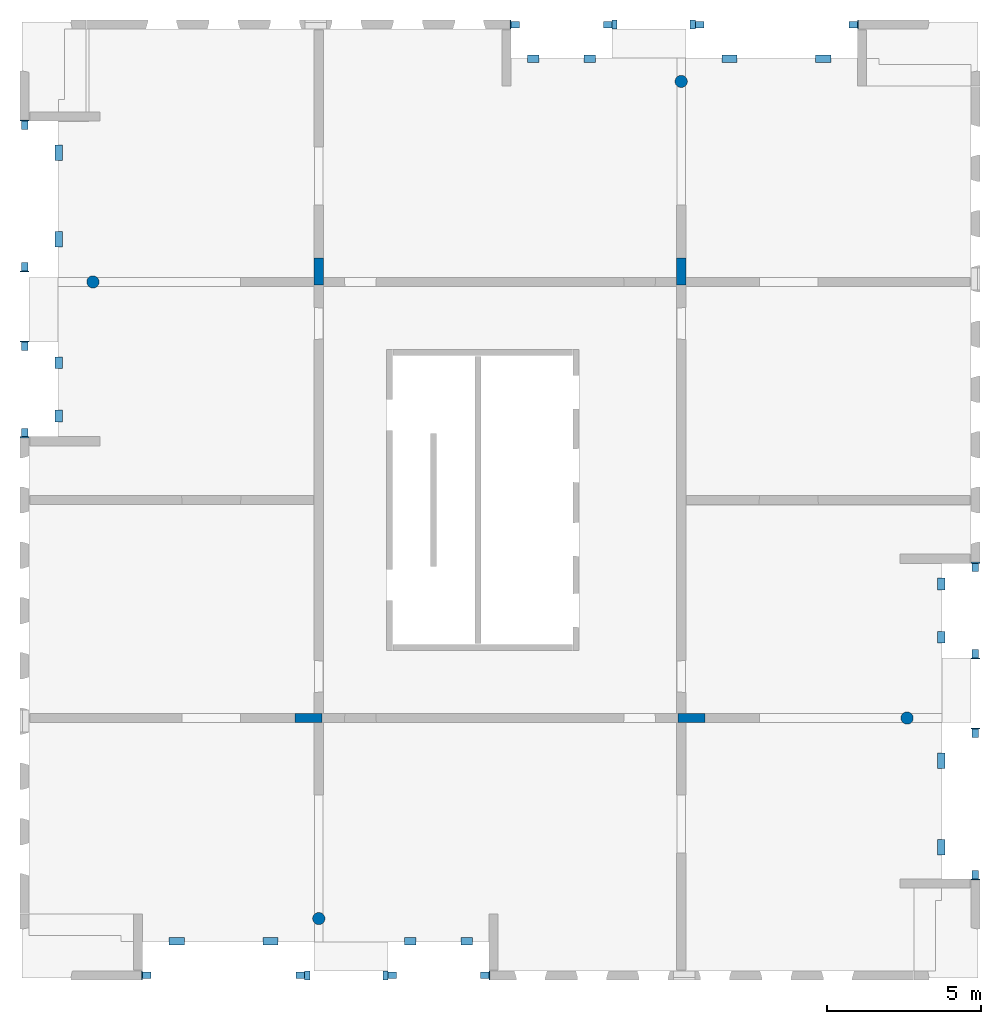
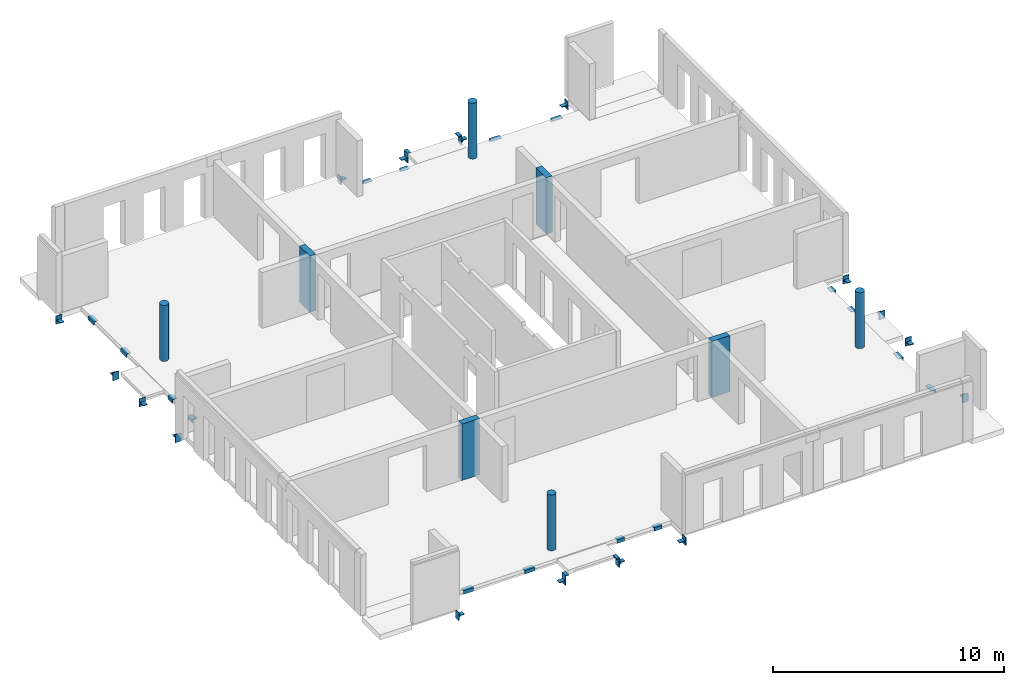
# One storey, part 1 of 6: 32 beams, 8 columns.
"""IFC2X3 building model written with IfcOpenShell, lengths in millimetres."""

from ifc_helpers import new_model, entity, si_unit, converted_unit, derived_unit, direction, frame, frame_2d, origin, origin_2d_with_axis, place, context, subcontext, project, spatial, polyline, rectangle, circle, outline, extrude, source, transform, mapped, material, type_object, type_shapes, element, save


model = new_model("IFC2X3")

# Units and contexts
model_context = context("Model", 3, precision=0.01, world=origin(), true_north=direction((6.12303176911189e-17, 1.0)))
body_context = subcontext(model_context, "Body", "Model", "MODEL_VIEW")
ifc_project = project(units=[si_unit("LENGTHUNIT", "METRE", prefix="MILLI"), si_unit("AREAUNIT", "SQUARE_METRE"), si_unit("VOLUMEUNIT", "CUBIC_METRE"), converted_unit("PLANEANGLEUNIT", "DEGREE", entity("IfcRatioMeasure", 0.0174532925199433), si_unit("PLANEANGLEUNIT", "RADIAN"), dimensions=[0, 0, 0, 0, 0, 0, 0]), si_unit("MASSUNIT", "GRAM", prefix="KILO"), derived_unit("MASSDENSITYUNIT", [(si_unit("MASSUNIT", "GRAM", prefix="KILO"), 1), (si_unit("LENGTHUNIT", "METRE"), -3)]), si_unit("TIMEUNIT", "SECOND"), si_unit("FREQUENCYUNIT", "HERTZ"), si_unit("THERMODYNAMICTEMPERATUREUNIT", "DEGREE_CELSIUS"), derived_unit("THERMALTRANSMITTANCEUNIT", [(si_unit("MASSUNIT", "GRAM", prefix="KILO"), 1), (si_unit("THERMODYNAMICTEMPERATUREUNIT", "KELVIN"), -1), (si_unit("TIMEUNIT", "SECOND"), -3)]), derived_unit("VOLUMETRICFLOWRATEUNIT", [(si_unit("LENGTHUNIT", "METRE"), 3), (si_unit("TIMEUNIT", "SECOND"), -1)]), si_unit("ELECTRICCURRENTUNIT", "AMPERE"), si_unit("ELECTRICVOLTAGEUNIT", "VOLT"), si_unit("POWERUNIT", "WATT"), si_unit("FORCEUNIT", "NEWTON", prefix="KILO"), si_unit("ILLUMINANCEUNIT", "LUX"), si_unit("LUMINOUSFLUXUNIT", "LUMEN"), si_unit("LUMINOUSINTENSITYUNIT", "CANDELA"), derived_unit("USERDEFINED", [(si_unit("MASSUNIT", "GRAM", prefix="KILO"), -1), (si_unit("LENGTHUNIT", "METRE"), -2), (si_unit("TIMEUNIT", "SECOND"), 3), (si_unit("LUMINOUSFLUXUNIT", "LUMEN"), 1)]), derived_unit("LINEARVELOCITYUNIT", [(si_unit("LENGTHUNIT", "METRE"), 1), (si_unit("TIMEUNIT", "SECOND"), -1)]), si_unit("PRESSUREUNIT", "PASCAL"), derived_unit("USERDEFINED", [(si_unit("LENGTHUNIT", "METRE"), -2), (si_unit("MASSUNIT", "GRAM", prefix="KILO"), 1), (si_unit("TIMEUNIT", "SECOND"), -2)])], contexts=[model_context])

# Site, building, storey
site_placement = place(None, origin())
site = spatial("IfcSite", under=ifc_project, at=site_placement, Name="Default", CompositionType="ELEMENT")
building_placement = place(site_placement, origin())
building = spatial("IfcBuilding", under=site, at=building_placement, Name="niet gebruiken", CompositionType="ELEMENT")
storey_placement = place(building_placement, frame((0.0, 0.0, 161820.0)))
storey = spatial("IfcBuildingStorey", under=building, at=storey_placement, Name="52 tweeënvijftigste verdieping", CompositionType="ELEMENT", Elevation=161820.0)

# Columns
ifc_material_1 = material(Name="NLRS_f2_beton ihwg")
column_type_1 = type_object("IfcColumnType", Name="300x880", PredefinedType="COLUMN", material=ifc_material_1)
shared_shape_1 = source(origin(), body_context, "Body", "SweptSolid", [
    extrude(rectangle(XDim=879.999999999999, YDim=300.000000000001, at=origin_2d_with_axis()), frame((135850.0, 24940.0, 161730.0), z_axis=(0.0, 0.0, 1.0), x_axis=(0.0, -1.0, 0.0)), (0.0, 0.0, 1.0), 2970.00000000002),
])
type_shapes(column_type_1, [shared_shape_1])
column_1_placement = place(storey_placement, frame((0.0, 0.0, -161820.0)))
element("IfcColumn", 1, at=column_1_placement, inside=storey, type_object=column_type_1, material=ifc_material_1, Name="NLRS_28.11_SCO_TLB_beton kolom ihwg_gen:300x880", ObjectType="300x880", context=body_context, shape_type="MappedRepresentation", body=[
    mapped(shared_shape_1, transform((0.0, 0.0, 0.0), scale=1.0)),
])
column_type_2 = type_object("IfcColumnType", Name="300x880", PredefinedType="COLUMN", material=ifc_material_1)
shared_shape_2 = source(origin(), body_context, "Body", "SweptSolid", [
    extrude(rectangle(XDim=879.999999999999, YDim=300.000000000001, at=origin_2d_with_axis()), frame((147650.0, 24940.0, 161730.0), z_axis=(0.0, 0.0, 1.0), x_axis=(0.0, -1.0, 0.0)), (0.0, 0.0, 1.0), 2970.00000000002),
])
type_shapes(column_type_2, [shared_shape_2])
column_2_placement = place(storey_placement, frame((0.0, 0.0, -161820.0)))
element("IfcColumn", 2, at=column_2_placement, inside=storey, type_object=column_type_2, material=ifc_material_1, Name="NLRS_28.11_SCO_TLB_beton kolom ihwg_gen:300x880", ObjectType="300x880", context=body_context, shape_type="MappedRepresentation", body=[
    mapped(shared_shape_2, transform((0.0, 0.0, 0.0), scale=1.0)),
])
column_type_3 = type_object("IfcColumnType", Name="300x880", PredefinedType="COLUMN", material=ifc_material_1)
shared_shape_3 = source(origin(), body_context, "Body", "SweptSolid", [
    extrude(rectangle(XDim=300.000000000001, YDim=880.000000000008, at=origin_2d_with_axis()), frame((135510.003540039, 10400.0, 161730.0), z_axis=(0.0, 0.0, 1.0), x_axis=(0.0, -1.0, 0.0)), (0.0, 0.0, 1.0), 2970.00000000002),
])
type_shapes(column_type_3, [shared_shape_3])
column_3_placement = place(storey_placement, frame((0.0, 0.0, -161820.0)))
element("IfcColumn", 3, at=column_3_placement, inside=storey, type_object=column_type_3, material=ifc_material_1, Name="NLRS_28.11_SCO_TLB_beton kolom ihwg_gen:300x880", ObjectType="300x880", context=body_context, shape_type="MappedRepresentation", body=[
    mapped(shared_shape_3, transform((0.0, 0.0, 0.0), scale=1.0)),
])
column_type_4 = type_object("IfcColumnType", Name="300x880", PredefinedType="COLUMN", material=ifc_material_1)
shared_shape_4 = source(origin(), body_context, "Body", "SweptSolid", [
    extrude(rectangle(XDim=300.000000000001, YDim=880.000000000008, at=origin_2d_with_axis()), frame((147990.0, 10400.0, 161730.0), z_axis=(0.0, 0.0, 1.0), x_axis=(0.0, -1.0, 0.0)), (0.0, 0.0, 1.0), 2970.00000000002),
])
type_shapes(column_type_4, [shared_shape_4])
column_4_placement = place(storey_placement, frame((0.0, 0.0, -161820.0)))
element("IfcColumn", 4, at=column_4_placement, inside=storey, type_object=column_type_4, material=ifc_material_1, Name="NLRS_28.11_SCO_TLB_beton kolom ihwg_gen:300x880", ObjectType="300x880", context=body_context, shape_type="MappedRepresentation", body=[
    mapped(shared_shape_4, transform((0.0, 0.0, 0.0), scale=1.0)),
])
ifc_material_2 = material(Name="NLRS_f2_beton prefab")
column_type_5 = type_object("IfcColumnType", Name="ø400", PredefinedType="COLUMN", material=ifc_material_2)
shared_shape_5 = source(origin(), body_context, "Body", "SweptSolid", [
    extrude(circle(Radius=200.000000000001, at=origin_2d_with_axis()), frame((147650.0, 31130.0, 161750.0), z_axis=(0.0, 0.0, 1.0), x_axis=(0.0, -1.0, 0.0)), (0.0, 0.0, 1.0), 2949.99999999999),
])
type_shapes(column_type_5, [shared_shape_5])
column_5_placement = place(storey_placement, frame((0.0, 0.0, -161820.0)))
element("IfcColumn", 5, at=column_5_placement, inside=storey, type_object=column_type_5, material=ifc_material_2, Name="NLRS_28. kolom rond_gen:ø400", ObjectType="ø400", context=body_context, shape_type="MappedRepresentation", body=[
    mapped(shared_shape_5, transform((0.0, 0.0, 0.0), scale=1.0)),
])
column_type_6 = type_object("IfcColumnType", Name="ø400", PredefinedType="COLUMN", material=ifc_material_2)
shared_shape_6 = source(origin(), body_context, "Body", "SweptSolid", [
    extrude(circle(Radius=199.999999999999, at=origin_2d_with_axis()), frame((155005.0, 10400.0, 161750.0), z_axis=(0.0, 0.0, 1.0), x_axis=(0.0, -1.0, 0.0)), (0.0, 0.0, 1.0), 2949.99999999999),
])
type_shapes(column_type_6, [shared_shape_6])
column_6_placement = place(storey_placement, frame((0.0, 0.0, -161820.0)))
element("IfcColumn", 6, at=column_6_placement, inside=storey, type_object=column_type_6, material=ifc_material_2, Name="NLRS_28. kolom rond_gen:ø400", ObjectType="ø400", context=body_context, shape_type="MappedRepresentation", body=[
    mapped(shared_shape_6, transform((0.0, 0.0, 0.0), scale=1.0)),
])
column_type_7 = type_object("IfcColumnType", Name="ø400", PredefinedType="COLUMN", material=ifc_material_2)
shared_shape_7 = source(origin(), body_context, "Body", "SweptSolid", [
    extrude(circle(Radius=199.999999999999, at=frame_2d((-5.41433564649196e-13, 0.0), x_axis=(1.0, 0.0))), frame((135850.0, 3870.0, 161750.0), z_axis=(0.0, 0.0, 1.0), x_axis=(0.0, -1.0, 0.0)), (0.0, 0.0, 1.0), 2949.99999999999),
])
type_shapes(column_type_7, [shared_shape_7])
column_7_placement = place(storey_placement, frame((0.0, 0.0, -161820.0)))
element("IfcColumn", 7, at=column_7_placement, inside=storey, type_object=column_type_7, material=ifc_material_2, Name="NLRS_28. kolom rond_gen:ø400", ObjectType="ø400", context=body_context, shape_type="MappedRepresentation", body=[
    mapped(shared_shape_7, transform((0.0, 0.0, 0.0), scale=1.0)),
])
column_type_8 = type_object("IfcColumnType", Name="ø400", PredefinedType="COLUMN", material=ifc_material_2)
shared_shape_8 = source(origin(), body_context, "Body", "SweptSolid", [
    extrude(circle(Radius=199.999999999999, at=origin_2d_with_axis()), frame((128495.0, 24600.0, 161750.0), z_axis=(0.0, 0.0, 1.0), x_axis=(0.0, -1.0, 0.0)), (0.0, 0.0, 1.0), 2949.99999999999),
])
type_shapes(column_type_8, [shared_shape_8])
column_8_placement = place(storey_placement, frame((0.0, 0.0, -161820.0)))
element("IfcColumn", 8, at=column_8_placement, inside=storey, type_object=column_type_8, material=ifc_material_2, Name="NLRS_28. kolom rond_gen:ø400", ObjectType="ø400", context=body_context, shape_type="MappedRepresentation", body=[
    mapped(shared_shape_8, transform((0.0, 0.0, 0.0), scale=1.0)),
])

# Beams
ifc_material_3 = material(Name="NLRS_h2_staal")
beam_type_1 = type_object("IfcBeamType", Name="NLRS_28.11_SF_WPB_stalen schoen 4_gen", PredefinedType="BEAM", material=ifc_material_3)
shared_shape_9 = source(origin(), body_context, "Body", "SweptSolid", [
    extrude(outline(polyline([(-69.4999999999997, -23.0), (8.49999999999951, -23.0), (30.5, -1.0), (30.5000000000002, 47.0), (-69.4999999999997, -23.0)])), frame((-105.0, -109.499999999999, -58.0), z_axis=(1.0, 0.0, 0.0), x_axis=(0.0, -1.0, 0.0)), (0.0, 0.0, 1.0), 35.0),
    extrude(outline(polyline([(-69.4999999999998, -23.0), (8.49999999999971, -23.0), (30.5, -1.0), (30.5000000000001, 47.0), (-69.4999999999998, -23.0)])), frame((70.0, -109.499999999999, -58.0), z_axis=(1.0, 0.0, 0.0), x_axis=(0.0, -1.0, 0.0)), (0.0, 0.0, 1.0), 35.0),
    extrude(rectangle(XDim=300.0, YDim=34.9999999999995, at=origin_2d_with_axis()), frame((0.0, -157.5, -230.0), z_axis=(0.0, 0.0, 1.0), x_axis=(-1.0, 0.0, 0.0)), (0.0, 0.0, 1.0), 420.0),
    extrude(rectangle(XDim=210.000000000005, YDim=274.999999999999, at=origin_2d_with_axis()), frame((0.0, -2.4999999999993, -35.0), z_axis=(0.0, 0.0, 1.0), x_axis=(-1.0, 0.0, 0.0)), (0.0, 0.0, 1.0), 35.0),
])
type_shapes(beam_type_1, [shared_shape_9])
beam_1_placement = place(storey_placement, frame((141250.0, 2020.0, -430.0), z_axis=(0.0, 0.0, 1.0), x_axis=(0.0, 1.0, 0.0)))
element("IfcBeam", 9, at=beam_1_placement, inside=storey, type_object=beam_type_1, material=ifc_material_3, Name="NLRS_28.11_SF_WPB_stalen schoen 4_gen:NLRS_28.11_SF_WPB_stalen schoen 4_gen", ObjectType="NLRS_28.11_SF_WPB_stalen schoen 4_gen", context=body_context, shape_type="MappedRepresentation", body=[
    mapped(shared_shape_9, transform((0.0, 0.0, 0.0), scale=1.0)),
])
beam_2_placement = place(storey_placement, frame((157230.0, 12500.0, -370.0)))
element("IfcBeam", 10, at=beam_2_placement, inside=storey, type_object=beam_type_1, material=ifc_material_3, Name="NLRS_28.11_SF_WPB_stalen schoen 4_gen:NLRS_28.11_SF_WPB_stalen schoen 4_gen", ObjectType="NLRS_28.11_SF_WPB_stalen schoen 4_gen", context=body_context, shape_type="MappedRepresentation", body=[
    mapped(shared_shape_9, transform((0.0, 0.0, 0.0), scale=1.0)),
])
for number, where, z_axis, x_axis, name in (
    (11, (157230.0, 15300.0, -370.0), (0.0, 0.0, 1.0), (-1.0, 0.0, 0.0), "NLRS_28.11_SF_WPB_stalen schoen 4_gen:NLRS_28.11_SF_WPB_stalen schoen 4_gen"),
    (12, (142250.0, 32980.0, -430.0), (0.0, 0.0, 1.0), (0.0, -1.0, 0.0), "NLRS_28.11_SF_WPB_stalen schoen 4_gen:NLRS_28.11_SF_WPB_stalen schoen 4_gen"),
    (13, (126270.0, 22500.0, -370.0), (0.0, 0.0, 1.0), (-1.0, 0.0, 0.0), "NLRS_28.11_SF_WPB_stalen schoen 4_gen:NLRS_28.11_SF_WPB_stalen schoen 4_gen"),
):
    element("IfcBeam", number, at=place(storey_placement, frame(where, z_axis=z_axis, x_axis=x_axis)), inside=storey, type_object=beam_type_1, material=ifc_material_3, Name=name, ObjectType="NLRS_28.11_SF_WPB_stalen schoen 4_gen", context=body_context, shape_type="MappedRepresentation", body=[
        mapped(shared_shape_9, transform((0.0, 0.0, 0.0), scale=1.0)),
    ])
beam_3_placement = place(storey_placement, frame((126270.0, 19700.0, -370.0)))
element("IfcBeam", 14, at=beam_3_placement, inside=storey, type_object=beam_type_1, material=ifc_material_3, Name="NLRS_28.11_SF_WPB_stalen schoen 4_gen:NLRS_28.11_SF_WPB_stalen schoen 4_gen", ObjectType="NLRS_28.11_SF_WPB_stalen schoen 4_gen", context=body_context, shape_type="MappedRepresentation", body=[
    mapped(shared_shape_9, transform((0.0, 0.0, 0.0), scale=1.0)),
])
beam_type_2 = type_object("IfcBeamType", Name="NLRS_28.11_SF_WPB_stalen schoen 3_gen", PredefinedType="BEAM", material=ifc_material_3)
shared_shape_10 = source(origin(), body_context, "Body", "SweptSolid", [
    extrude(outline(polyline([(-69.4999999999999, -23.0), (8.49999999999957, -23.0), (30.5000000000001, -1.0), (30.5000000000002, 47.0), (-69.4999999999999, -23.0)])), frame((-105.0, -109.499999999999, -63.0), z_axis=(1.0, 0.0, 0.0), x_axis=(0.0, -1.0, 0.0)), (0.0, 0.0, 1.0), 40.0),
    extrude(outline(polyline([(-69.4999999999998, -23.0), (8.49999999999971, -23.0), (30.5, -1.0), (30.5000000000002, 47.0), (-69.4999999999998, -23.0)])), frame((65.0, -109.499999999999, -63.0), z_axis=(1.0, 0.0, 0.0), x_axis=(0.0, -1.0, 0.0)), (0.0, 0.0, 1.0), 40.0),
    extrude(rectangle(XDim=300.0, YDim=39.9999999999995, at=origin_2d_with_axis()), frame((0.0, -160.0, -230.0), z_axis=(0.0, 0.0, 1.0), x_axis=(-1.0, 0.0, 0.0)), (0.0, 0.0, 1.0), 420.0),
    extrude(rectangle(XDim=210.000000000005, YDim=274.999999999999, at=origin_2d_with_axis()), frame((0.0, -2.49999999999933, -40.0), z_axis=(0.0, 0.0, 1.0), x_axis=(-1.0, 0.0, 0.0)), (0.0, 0.0, 1.0), 39.9999999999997),
])
type_shapes(beam_type_2, [shared_shape_10])
for number, where, z_axis, x_axis, name in (
    (15, (130250.0, 2020.0, -430.0), (0.0, 0.0, 1.0), (0.0, -1.0, 0.0), "NLRS_28.11_SF_WPB_stalen schoen 3_gen:NLRS_28.11_SF_WPB_stalen schoen 3_gen"),
    (16, (157230.0, 9900.0, -370.0), (0.0, 0.0, 1.0), (-1.0, 0.0, 0.0), "NLRS_28.11_SF_WPB_stalen schoen 3_gen:NLRS_28.11_SF_WPB_stalen schoen 3_gen"),
):
    element("IfcBeam", number, at=place(storey_placement, frame(where, z_axis=z_axis, x_axis=x_axis)), inside=storey, type_object=beam_type_2, material=ifc_material_3, Name=name, ObjectType="NLRS_28.11_SF_WPB_stalen schoen 3_gen", context=body_context, shape_type="MappedRepresentation", body=[
        mapped(shared_shape_10, transform((0.0, 0.0, 0.0), scale=1.0)),
    ])
beam_4_placement = place(storey_placement, frame((157230.0, 5300.0, -370.0)))
element("IfcBeam", 17, at=beam_4_placement, inside=storey, type_object=beam_type_2, material=ifc_material_3, Name="NLRS_28.11_SF_WPB_stalen schoen 3_gen:NLRS_28.11_SF_WPB_stalen schoen 3_gen", ObjectType="NLRS_28.11_SF_WPB_stalen schoen 3_gen", context=body_context, shape_type="MappedRepresentation", body=[
    mapped(shared_shape_10, transform((0.0, 0.0, 0.0), scale=1.0)),
])
beam_5_placement = place(storey_placement, frame((153250.0, 32980.0, -430.0), z_axis=(0.0, 0.0, 1.0), x_axis=(0.0, 1.0, 0.0)))
element("IfcBeam", 18, at=beam_5_placement, inside=storey, type_object=beam_type_2, material=ifc_material_3, Name="NLRS_28.11_SF_WPB_stalen schoen 3_gen:NLRS_28.11_SF_WPB_stalen schoen 3_gen", ObjectType="NLRS_28.11_SF_WPB_stalen schoen 3_gen", context=body_context, shape_type="MappedRepresentation", body=[
    mapped(shared_shape_10, transform((0.0, 0.0, 0.0), scale=1.0)),
])
beam_6_placement = place(storey_placement, frame((126270.0, 25100.0, -370.0)))
element("IfcBeam", 19, at=beam_6_placement, inside=storey, type_object=beam_type_2, material=ifc_material_3, Name="NLRS_28.11_SF_WPB_stalen schoen 3_gen:NLRS_28.11_SF_WPB_stalen schoen 3_gen", ObjectType="NLRS_28.11_SF_WPB_stalen schoen 3_gen", context=body_context, shape_type="MappedRepresentation", body=[
    mapped(shared_shape_10, transform((0.0, 0.0, 0.0), scale=1.0)),
])
beam_7_placement = place(storey_placement, frame((126270.0, 29700.0, -370.0), z_axis=(0.0, 0.0, 1.0), x_axis=(-1.0, 0.0, 0.0)))
element("IfcBeam", 20, at=beam_7_placement, inside=storey, type_object=beam_type_2, material=ifc_material_3, Name="NLRS_28.11_SF_WPB_stalen schoen 3_gen:NLRS_28.11_SF_WPB_stalen schoen 3_gen", ObjectType="NLRS_28.11_SF_WPB_stalen schoen 3_gen", context=body_context, shape_type="MappedRepresentation", body=[
    mapped(shared_shape_10, transform((0.0, 0.0, 0.0), scale=1.0)),
])
beam_type_3 = type_object("IfcBeamType", Name="NLRS_28.11_SF_WPB_stalen handje 7 lang 375_gen:NLRS_28.11_SF_WPB_stalen handje 7_gen", PredefinedType="BEAM")
beam_8_placement = place(storey_placement, frame((140862.506582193, 3015.0, -93.0), z_axis=(0.0, 0.0, 1.0), x_axis=(-1.0, 0.0, 0.0)))
element("IfcBeam", 21, at=beam_8_placement, inside=storey, type_object=beam_type_3, material=ifc_material_3, Name="NLRS_28.11_SF_WPB_stalen handje 7 lang 375_gen:NLRS_28.11_SF_WPB_stalen handje 7_gen", ObjectType="NLRS_28.11_SF_WPB_stalen handje 7 lang 375_gen:NLRS_28.11_SF_WPB_stalen handje 7_gen", context=body_context, shape_type="SweptSolid", body=[
    extrude(outline(polyline([(-70.6666666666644, -153.333333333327), (-40.6666666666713, -153.333333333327), (-40.6666666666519, 61.6666666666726), (111.333333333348, 61.6666666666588), (111.333333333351, 91.6666666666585), (-70.6666666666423, 91.666666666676), (-70.6666666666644, -153.333333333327)])), frame((0.0, -91.6666666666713, -70.6666666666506), z_axis=(1.0, 0.0, 0.0), x_axis=(0.0, 0.0, -1.0)), (0.0, 0.0, 1.0), 375.000000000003),
])
beam_9_placement = place(storey_placement, frame((139012.503540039, 3015.0, -93.0), z_axis=(0.0, 0.0, 1.0), x_axis=(-1.0, 0.0, 0.0)))
element("IfcBeam", 22, at=beam_9_placement, inside=storey, type_object=beam_type_3, material=ifc_material_3, Name="NLRS_28.11_SF_WPB_stalen handje 7 lang 375_gen:NLRS_28.11_SF_WPB_stalen handje 7_gen", ObjectType="NLRS_28.11_SF_WPB_stalen handje 7 lang 375_gen:NLRS_28.11_SF_WPB_stalen handje 7_gen", context=body_context, shape_type="SweptSolid", body=[
    extrude(outline(polyline([(-70.6666666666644, -153.333333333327), (-40.6666666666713, -153.333333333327), (-40.6666666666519, 61.6666666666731), (111.333333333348, 61.6666666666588), (111.333333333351, 91.6666666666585), (-70.6666666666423, 91.666666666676), (-70.6666666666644, -153.333333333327)])), frame((0.0, -91.6666666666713, -70.6666666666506), z_axis=(1.0, 0.0, 0.0), x_axis=(0.0, 0.0, -1.0)), (0.0, 0.0, 1.0), 375.000000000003),
])
beam_10_placement = place(storey_placement, frame((134525.006582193, 3015.0, -93.0), z_axis=(0.0, 0.0, 1.0), x_axis=(-1.0, 0.0, 0.0)))
element("IfcBeam", 23, at=beam_10_placement, inside=storey, type_object=beam_type_3, material=ifc_material_3, Name="NLRS_28.11_SF_WPB_stalen handje 7 lang 375_gen:NLRS_28.11_SF_WPB_stalen handje 7_gen", ObjectType="NLRS_28.11_SF_WPB_stalen handje 7 lang 375_gen:NLRS_28.11_SF_WPB_stalen handje 7_gen", context=body_context, shape_type="SweptSolid", body=[
    extrude(outline(polyline([(-70.66666666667, -153.333333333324), (-40.6666666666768, -153.333333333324), (-40.6666666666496, 61.6666666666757), (111.33333333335, 61.6666666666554), (111.333333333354, 91.666666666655), (-70.666666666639, 91.6666666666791), (-70.66666666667, -153.333333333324)])), frame((0.0, -91.6666666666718, -70.6666666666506), z_axis=(1.0, 0.0, 0.0), x_axis=(0.0, 0.0, -1.0)), (0.0, 0.0, 1.0), 500.000000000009),
])
beam_11_placement = place(storey_placement, frame((131475.003540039, 3015.0, -93.0), z_axis=(0.0, 0.0, 1.0), x_axis=(-1.0, 0.0, 0.0)))
element("IfcBeam", 24, at=beam_11_placement, inside=storey, type_object=beam_type_3, material=ifc_material_3, Name="NLRS_28.11_SF_WPB_stalen handje 7 lang 375_gen:NLRS_28.11_SF_WPB_stalen handje 7_gen", ObjectType="NLRS_28.11_SF_WPB_stalen handje 7 lang 375_gen:NLRS_28.11_SF_WPB_stalen handje 7_gen", context=body_context, shape_type="SweptSolid", body=[
    extrude(outline(polyline([(-70.66666666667, -153.333333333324), (-40.6666666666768, -153.333333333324), (-40.6666666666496, 61.6666666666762), (111.33333333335, 61.6666666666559), (111.333333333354, 91.6666666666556), (-70.666666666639, 91.6666666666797), (-70.66666666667, -153.333333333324)])), frame((0.0, -91.6666666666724, -70.6666666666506), z_axis=(1.0, 0.0, 0.0), x_axis=(0.0, 0.0, -1.0)), (0.0, 0.0, 1.0), 500.000000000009),
])
beam_12_placement = place(storey_placement, frame((156235.0, 14952.5097115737, -93.0), z_axis=(0.0, 0.0, 1.0), x_axis=(0.0, -1.0, 0.0)))
element("IfcBeam", 25, at=beam_12_placement, inside=storey, type_object=beam_type_3, material=ifc_material_3, Name="NLRS_28.11_SF_WPB_stalen handje 7 lang 375_gen:NLRS_28.11_SF_WPB_stalen handje 7_gen", ObjectType="NLRS_28.11_SF_WPB_stalen handje 7 lang 375_gen:NLRS_28.11_SF_WPB_stalen handje 7_gen", context=body_context, shape_type="SweptSolid", body=[
    extrude(outline(polyline([(-70.6666666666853, -153.333333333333), (-40.6666666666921, -153.333333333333), (-40.6666666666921, 61.66666666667), (111.333333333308, 61.66666666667), (111.333333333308, 91.6666666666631), (-70.6666666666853, 91.6666666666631), (-70.6666666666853, -153.333333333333)])), frame((0.0, -91.6666666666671, -70.6666666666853), z_axis=(1.0, 0.0, 0.0), x_axis=(0.0, 0.0, -1.0)), (0.0, 0.0, 1.0), 375.000000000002),
])
beam_13_placement = place(storey_placement, frame((156235.0, 13222.5097115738, -93.0), z_axis=(0.0, 0.0, 1.0), x_axis=(0.0, -1.0, 0.0)))
element("IfcBeam", 26, at=beam_13_placement, inside=storey, type_object=beam_type_3, material=ifc_material_3, Name="NLRS_28.11_SF_WPB_stalen handje 7 lang 375_gen:NLRS_28.11_SF_WPB_stalen handje 7_gen", ObjectType="NLRS_28.11_SF_WPB_stalen handje 7 lang 375_gen:NLRS_28.11_SF_WPB_stalen handje 7_gen", context=body_context, shape_type="SweptSolid", body=[
    extrude(outline(polyline([(-70.6666666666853, -153.333333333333), (-40.6666666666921, -153.333333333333), (-40.6666666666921, 61.66666666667), (111.333333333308, 61.66666666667), (111.333333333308, 91.6666666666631), (-70.6666666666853, 91.6666666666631), (-70.6666666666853, -153.333333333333)])), frame((0.0, -91.6666666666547, -70.6666666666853), z_axis=(1.0, 0.0, 0.0), x_axis=(0.0, 0.0, -1.0)), (0.0, 0.0, 1.0), 375.000000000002),
])
beam_14_placement = place(storey_placement, frame((156235.0, 9255.01275181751, -93.0), z_axis=(0.0, 0.0, 1.0), x_axis=(0.0, -1.0, 0.0)))
element("IfcBeam", 27, at=beam_14_placement, inside=storey, type_object=beam_type_3, material=ifc_material_3, Name="NLRS_28.11_SF_WPB_stalen handje 7 lang 375_gen:NLRS_28.11_SF_WPB_stalen handje 7_gen", ObjectType="NLRS_28.11_SF_WPB_stalen handje 7 lang 375_gen:NLRS_28.11_SF_WPB_stalen handje 7_gen", context=body_context, shape_type="SweptSolid", body=[
    extrude(outline(polyline([(-70.6666666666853, -153.333333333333), (-40.6666666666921, -153.333333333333), (-40.6666666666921, 61.66666666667), (111.333333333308, 61.66666666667), (111.333333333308, 91.6666666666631), (-70.6666666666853, 91.6666666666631), (-70.6666666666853, -153.333333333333)])), frame((0.0, -91.6666666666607, -70.6666666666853), z_axis=(1.0, 0.0, 0.0), x_axis=(0.0, 0.0, -1.0)), (0.0, 0.0, 1.0), 500.000000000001),
])
beam_15_placement = place(storey_placement, frame((156235.0, 6445.00971157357, -93.0), z_axis=(0.0, 0.0, 1.0), x_axis=(0.0, -1.0, 0.0)))
element("IfcBeam", 28, at=beam_15_placement, inside=storey, type_object=beam_type_3, material=ifc_material_3, Name="NLRS_28.11_SF_WPB_stalen handje 7 lang 375_gen:NLRS_28.11_SF_WPB_stalen handje 7_gen", ObjectType="NLRS_28.11_SF_WPB_stalen handje 7 lang 375_gen:NLRS_28.11_SF_WPB_stalen handje 7_gen", context=body_context, shape_type="SweptSolid", body=[
    extrude(outline(polyline([(-70.6666666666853, -153.333333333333), (-40.6666666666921, -153.333333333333), (-40.6666666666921, 61.66666666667), (111.333333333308, 61.66666666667), (111.333333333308, 91.6666666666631), (-70.6666666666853, 91.6666666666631), (-70.6666666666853, -153.333333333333)])), frame((0.0, -91.666666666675, -70.6666666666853), z_axis=(1.0, 0.0, 0.0), x_axis=(0.0, 0.0, -1.0)), (0.0, 0.0, 1.0), 500.000000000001),
])
beam_16_placement = place(storey_placement, frame((127265.0, 20047.4902884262, -93.0), z_axis=(0.0, 0.0, 1.0), x_axis=(0.0, 1.0, 0.0)))
element("IfcBeam", 29, at=beam_16_placement, inside=storey, type_object=beam_type_3, material=ifc_material_3, Name="NLRS_28.11_SF_WPB_stalen handje 7 lang 375_gen:NLRS_28.11_SF_WPB_stalen handje 7_gen", ObjectType="NLRS_28.11_SF_WPB_stalen handje 7 lang 375_gen:NLRS_28.11_SF_WPB_stalen handje 7_gen", context=body_context, shape_type="SweptSolid", body=[
    extrude(outline(polyline([(-70.6666666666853, -153.333333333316), (-40.6666666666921, -153.333333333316), (-40.6666666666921, 61.6666666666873), (111.333333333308, 61.66666666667), (111.333333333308, 91.6666666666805), (-70.6666666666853, 91.6666666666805), (-70.6666666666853, -153.333333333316)])), frame((0.0, -91.6666666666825, -70.6666666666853), z_axis=(1.0, 0.0, 0.0), x_axis=(0.0, 0.0, -1.0)), (0.0, 0.0, 1.0), 375.000000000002),
])
beam_17_placement = place(storey_placement, frame((127265.0, 21777.4902884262, -93.0), z_axis=(0.0, 0.0, 1.0), x_axis=(0.0, 1.0, 0.0)))
element("IfcBeam", 30, at=beam_17_placement, inside=storey, type_object=beam_type_3, material=ifc_material_3, Name="NLRS_28.11_SF_WPB_stalen handje 7 lang 375_gen:NLRS_28.11_SF_WPB_stalen handje 7_gen", ObjectType="NLRS_28.11_SF_WPB_stalen handje 7 lang 375_gen:NLRS_28.11_SF_WPB_stalen handje 7_gen", context=body_context, shape_type="SweptSolid", body=[
    extrude(outline(polyline([(-70.6666666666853, -153.33333333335), (-40.6666666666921, -153.33333333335), (-40.6666666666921, 61.6666666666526), (111.333333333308, 61.6666666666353), (111.333333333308, 91.6666666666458), (-70.6666666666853, 91.6666666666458), (-70.6666666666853, -153.33333333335)])), frame((0.0, -91.6666666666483, -70.6666666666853), z_axis=(1.0, 0.0, 0.0), x_axis=(0.0, 0.0, -1.0)), (0.0, 0.0, 1.0), 375.000000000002),
])
beam_18_placement = place(storey_placement, frame((127265.0, 25744.9872481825, -93.0), z_axis=(0.0, 0.0, 1.0), x_axis=(0.0, 1.0, 0.0)))
element("IfcBeam", 31, at=beam_18_placement, inside=storey, type_object=beam_type_3, material=ifc_material_3, Name="NLRS_28.11_SF_WPB_stalen handje 7 lang 375_gen:NLRS_28.11_SF_WPB_stalen handje 7_gen", ObjectType="NLRS_28.11_SF_WPB_stalen handje 7 lang 375_gen:NLRS_28.11_SF_WPB_stalen handje 7_gen", context=body_context, shape_type="SweptSolid", body=[
    extrude(outline(polyline([(-70.6666666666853, -153.333333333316), (-40.6666666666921, -153.333333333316), (-40.6666666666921, 61.66666666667), (111.333333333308, 61.66666666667), (111.333333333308, 91.6666666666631), (-70.6666666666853, 91.6666666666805), (-70.6666666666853, -153.333333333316)])), frame((0.0, -91.6666666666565, -70.6666666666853), z_axis=(1.0, 0.0, 0.0), x_axis=(0.0, 0.0, -1.0)), (0.0, 0.0, 1.0), 500.0),
])
beam_19_placement = place(storey_placement, frame((127265.0, 28554.9902884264, -93.0), z_axis=(0.0, 0.0, 1.0), x_axis=(0.0, 1.0, 0.0)))
element("IfcBeam", 32, at=beam_19_placement, inside=storey, type_object=beam_type_3, material=ifc_material_3, Name="NLRS_28.11_SF_WPB_stalen handje 7 lang 375_gen:NLRS_28.11_SF_WPB_stalen handje 7_gen", ObjectType="NLRS_28.11_SF_WPB_stalen handje 7 lang 375_gen:NLRS_28.11_SF_WPB_stalen handje 7_gen", context=body_context, shape_type="SweptSolid", body=[
    extrude(outline(polyline([(-70.6666666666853, -153.333333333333), (-40.6666666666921, -153.333333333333), (-40.6666666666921, 61.6666666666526), (111.333333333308, 61.6666666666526), (111.333333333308, 91.6666666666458), (-70.6666666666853, 91.6666666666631), (-70.6666666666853, -153.333333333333)])), frame((0.0, -91.6666666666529, -70.6666666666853), z_axis=(1.0, 0.0, 0.0), x_axis=(0.0, 0.0, -1.0)), (0.0, 0.0, 1.0), 500.0),
])
beam_20_placement = place(storey_placement, frame((142637.493417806, 31985.0, -93.0)))
element("IfcBeam", 33, at=beam_20_placement, inside=storey, type_object=beam_type_3, material=ifc_material_3, Name="NLRS_28.11_SF_WPB_stalen handje 7 lang 375_gen:NLRS_28.11_SF_WPB_stalen handje 7_gen", ObjectType="NLRS_28.11_SF_WPB_stalen handje 7 lang 375_gen:NLRS_28.11_SF_WPB_stalen handje 7_gen", context=body_context, shape_type="SweptSolid", body=[
    extrude(outline(polyline([(-70.6666666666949, -153.333333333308), (-40.6666666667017, -153.333333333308), (-40.6666666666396, 61.6666666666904), (111.33333333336, 61.6666666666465), (111.333333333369, 91.6666666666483), (-70.6666666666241, 91.6666666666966), (-70.6666666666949, -153.333333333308)])), frame((0.0, -91.6666666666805, -70.6666666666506), z_axis=(1.0, 0.0, 0.0), x_axis=(0.0, 0.0, -1.0)), (0.0, 0.0, 1.0), 375.000000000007),
])
beam_21_placement = place(storey_placement, frame((144487.49645996, 31985.0, -93.0)))
element("IfcBeam", 34, at=beam_21_placement, inside=storey, type_object=beam_type_3, material=ifc_material_3, Name="NLRS_28.11_SF_WPB_stalen handje 7 lang 375_gen:NLRS_28.11_SF_WPB_stalen handje 7_gen", ObjectType="NLRS_28.11_SF_WPB_stalen handje 7 lang 375_gen:NLRS_28.11_SF_WPB_stalen handje 7_gen", context=body_context, shape_type="SweptSolid", body=[
    extrude(outline(polyline([(-70.6666666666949, -153.333333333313), (-40.6666666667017, -153.333333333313), (-40.6666666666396, 61.666666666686), (111.33333333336, 61.6666666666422), (111.333333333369, 91.666666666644), (-70.6666666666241, 91.6666666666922), (-70.6666666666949, -153.333333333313)])), frame((0.0, -91.6666666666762, -70.6666666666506), z_axis=(1.0, 0.0, 0.0), x_axis=(0.0, 0.0, -1.0)), (0.0, 0.0, 1.0), 375.000000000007),
])
beam_22_placement = place(storey_placement, frame((148974.993417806, 31985.0, -93.0)))
element("IfcBeam", 35, at=beam_22_placement, inside=storey, type_object=beam_type_3, material=ifc_material_3, Name="NLRS_28.11_SF_WPB_stalen handje 7 lang 375_gen:NLRS_28.11_SF_WPB_stalen handje 7_gen", ObjectType="NLRS_28.11_SF_WPB_stalen handje 7 lang 375_gen:NLRS_28.11_SF_WPB_stalen handje 7_gen", context=body_context, shape_type="SweptSolid", body=[
    extrude(outline(polyline([(-70.666666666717, -153.333333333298), (-40.6666666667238, -153.333333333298), (-40.6666666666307, 61.6666666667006), (111.333333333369, 61.6666666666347), (111.333333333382, 91.6666666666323), (-70.6666666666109, 91.6666666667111), (-70.666666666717, -153.333333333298)])), frame((0.0, -91.6666666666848, -70.6666666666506), z_axis=(1.0, 0.0, 0.0), x_axis=(0.0, 0.0, -1.0)), (0.0, 0.0, 1.0), 500.000000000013),
])
beam_23_placement = place(storey_placement, frame((152024.99645996, 31985.0, -93.0)))
element("IfcBeam", 36, at=beam_23_placement, inside=storey, type_object=beam_type_3, material=ifc_material_3, Name="NLRS_28.11_SF_WPB_stalen handje 7 lang 375_gen:NLRS_28.11_SF_WPB_stalen handje 7_gen", ObjectType="NLRS_28.11_SF_WPB_stalen handje 7 lang 375_gen:NLRS_28.11_SF_WPB_stalen handje 7_gen", context=body_context, shape_type="SweptSolid", body=[
    extrude(outline(polyline([(-70.666666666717, -153.333333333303), (-40.6666666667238, -153.333333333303), (-40.6666666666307, 61.6666666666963), (111.333333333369, 61.6666666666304), (111.333333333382, 91.6666666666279), (-70.6666666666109, 91.6666666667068), (-70.666666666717, -153.333333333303)])), frame((0.0, -91.6666666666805, -70.6666666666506), z_axis=(1.0, 0.0, 0.0), x_axis=(0.0, 0.0, -1.0)), (0.0, 0.0, 1.0), 500.000000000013),
])
beam_type_4 = type_object("IfcBeamType", Name="NLRS_28.11_SF_WPB_stalen schoen 7_gen", PredefinedType="BEAM", material=ifc_material_3)
shared_shape_11 = source(origin(), body_context, "Body", "SweptSolid", [
    extrude(outline(polyline([(-80.0, -43.3333333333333), (40.0, -43.3333333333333), (40.0, 86.6666666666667), (-80.0, -43.3333333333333)])), frame((65.0, -100.0, -83.3333333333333), z_axis=(1.0, 0.0, 0.0), x_axis=(0.0, -1.0, 0.0)), (0.0, 0.0, 1.0), 40.0),
    extrude(outline(polyline([(-80.0, -43.3333333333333), (40.0, -43.3333333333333), (40.0, 86.6666666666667), (-80.0, -43.3333333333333)])), frame((-105.0, -100.0, -83.3333333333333), z_axis=(1.0, 0.0, 0.0), x_axis=(0.0, -1.0, 0.0)), (0.0, 0.0, 1.0), 40.0),
    extrude(outline(polyline([(-80.0, -43.3333333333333), (40.0, -43.3333333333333), (40.0, 86.6666666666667), (-80.0, -43.3333333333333)])), frame((-20.0, -100.0, -83.3333333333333), z_axis=(1.0, 0.0, 0.0), x_axis=(0.0, -1.0, 0.0)), (0.0, 0.0, 1.0), 40.0),
    extrude(rectangle(XDim=300.0, YDim=40.0000000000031, at=origin_2d_with_axis()), frame((0.0, -160.0, -230.0), z_axis=(0.0, 0.0, 1.0), x_axis=(-1.0, 0.0, 0.0)), (0.0, 0.0, 1.0), 520.0),
    extrude(rectangle(XDim=210.000000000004, YDim=274.999999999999, at=origin_2d_with_axis()), frame((0.0, -2.4999999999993, -40.0), z_axis=(0.0, 0.0, 1.0), x_axis=(-1.0, 0.0, 0.0)), (0.0, 0.0, 1.0), 40.0),
    extrude(rectangle(XDim=300.0, YDim=130.0, at=frame_2d((0.0, -3.5527136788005e-14), x_axis=(1.0, 0.0))), frame((0.0, -245.0, 250.0)), (0.0, 0.0, 1.0), 40.0),
])
type_shapes(beam_type_4, [shared_shape_11])
for number, where, z_axis, x_axis, name in (
    (37, (145250.0, 32980.0, -430.0), (0.0, 0.0, 1.0), (0.0, 1.0, 0.0), "NLRS_28.11_SF_WPB_stalen schoen 7_gen:NLRS_28.11_SF_WPB_stalen schoen 7_gen"),
    (38, (138250.0, 2020.0, -430.0), (0.0, 0.0, 1.0), (0.0, -1.0, 0.0), "NLRS_28.11_SF_WPB_stalen schoen 7_gen:NLRS_28.11_SF_WPB_stalen schoen 7_gen"),
    (39, (148250.0, 32980.0, -430.0), (0.0, 0.0, 1.0), (0.0, -1.0, 0.0), "NLRS_28.11_SF_WPB_stalen schoen 7_gen:NLRS_28.11_SF_WPB_stalen schoen 7_gen"),
    (40, (135250.0, 2020.0, -430.0), (0.0, 0.0, 1.0), (0.0, 1.0, 0.0), "NLRS_28.11_SF_WPB_stalen schoen 7_gen:NLRS_28.11_SF_WPB_stalen schoen 7_gen"),
):
    element("IfcBeam", number, at=place(storey_placement, frame(where, z_axis=z_axis, x_axis=x_axis)), inside=storey, type_object=beam_type_4, material=ifc_material_3, Name=name, ObjectType="NLRS_28.11_SF_WPB_stalen schoen 7_gen", context=body_context, shape_type="MappedRepresentation", body=[
        mapped(shared_shape_11, transform((0.0, 0.0, 0.0), scale=1.0)),
    ])

save(model, "model.ifc")
